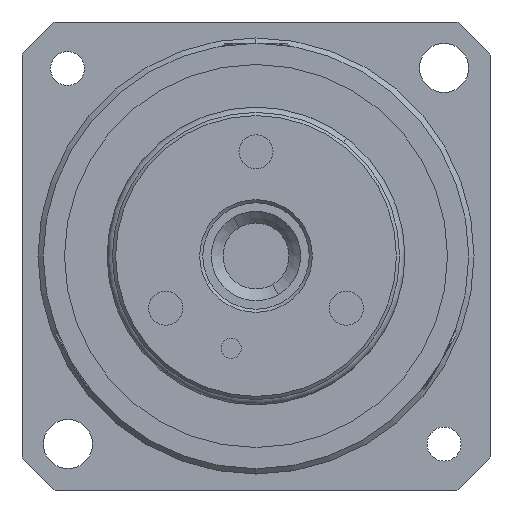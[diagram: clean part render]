
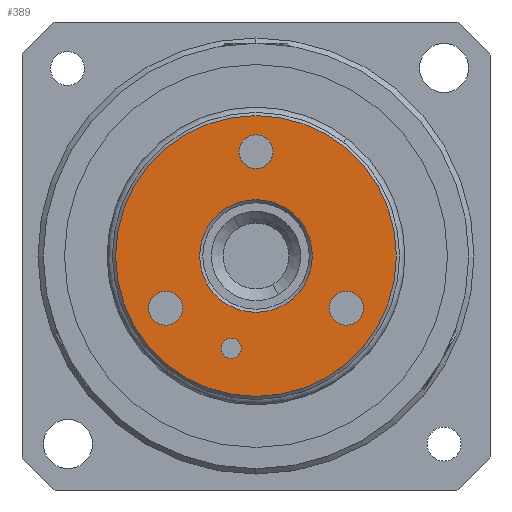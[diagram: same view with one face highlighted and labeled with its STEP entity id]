
A CAD part, left-side view. The second image highlights one B-rep face of the part: STEP entity #389.
In plain terms, the highlighted planar face has unit normal (-1, 0, 0) as drawn and (1, 0, 0) by its records, which use the part's own axes.
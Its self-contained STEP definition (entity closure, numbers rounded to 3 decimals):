
#74 = EDGE_CURVE ( 'NONE', #5388, #4124, #5758, .T. ) ;
#151 = AXIS2_PLACEMENT_3D ( 'NONE', #5463, #7902, #987 ) ;
#160 = DIRECTION ( 'NONE',  ( 0., 0., -1. ) ) ;
#161 = ORIENTED_EDGE ( 'NONE', *, *, #7798, .T. ) ;
#166 = EDGE_LOOP ( 'NONE', ( #2991, #1063 ) ) ;
#389 = ADVANCED_FACE ( 'NONE', ( #8021, #3136, #6321, #8233, #4621, #2919 ), #2220, .F. ) ;
#544 = DIRECTION ( 'NONE',  ( 1., 0., 0. ) ) ;
#903 = CARTESIAN_POINT ( 'NONE',  ( 3.5, 2.65, 0. ) ) ;
#904 = EDGE_CURVE ( 'NONE', #2517, #2728, #4137, .T. ) ;
#987 = DIRECTION ( 'NONE',  ( 0., -1., 0. ) ) ;
#1000 = EDGE_CURVE ( 'NONE', #4154, #8125, #6717, .T. ) ;
#1001 = AXIS2_PLACEMENT_3D ( 'NONE', #7797, #4009, #160 ) ;
#1063 = ORIENTED_EDGE ( 'NONE', *, *, #5921, .T. ) ;
#1213 = DIRECTION ( 'NONE',  ( 1., 0., 0. ) ) ;
#1271 = VERTEX_POINT ( 'NONE', #4160 ) ;
#1281 = CIRCLE ( 'NONE', #7271, 0.8 ) ;
#1307 = EDGE_CURVE ( 'NONE', #2728, #2517, #3530, .T. ) ;
#1392 = CARTESIAN_POINT ( 'NONE',  ( 3.5, -2.45, 4.244 ) ) ;
#1710 = ORIENTED_EDGE ( 'NONE', *, *, #1000, .T. ) ;
#1727 = CARTESIAN_POINT ( 'NONE',  ( 3.5, 0., 0. ) ) ;
#1863 = AXIS2_PLACEMENT_3D ( 'NONE', #7767, #5369, #6387 ) ;
#1867 = ORIENTED_EDGE ( 'NONE', *, *, #4630, .F. ) ;
#1873 = CARTESIAN_POINT ( 'NONE',  ( 3.5, -2.45, 3.444 ) ) ;
#1942 = CARTESIAN_POINT ( 'NONE',  ( 3.5, 4.9, 0.8 ) ) ;
#2025 = AXIS2_PLACEMENT_3D ( 'NONE', #1727, #6217, #2370 ) ;
#2051 = AXIS2_PLACEMENT_3D ( 'NONE', #1392, #5904, #2055 ) ;
#2055 = DIRECTION ( 'NONE',  ( 0., 0., -1. ) ) ;
#2153 = EDGE_CURVE ( 'NONE', #3676, #3718, #3605, .T. ) ;
#2220 = PLANE ( 'NONE',  #151 ) ;
#2318 = ORIENTED_EDGE ( 'NONE', *, *, #904, .T. ) ;
#2370 = DIRECTION ( 'NONE',  ( 0., -1., 0. ) ) ;
#2375 = CIRCLE ( 'NONE', #3536, 0.8 ) ;
#2517 = VERTEX_POINT ( 'NONE', #7026 ) ;
#2526 = CARTESIAN_POINT ( 'NONE',  ( 3.5, -6.6, 0. ) ) ;
#2570 = CARTESIAN_POINT ( 'NONE',  ( 3.5, 0., 0. ) ) ;
#2693 = CIRCLE ( 'NONE', #4119, 0.8 ) ;
#2711 = CARTESIAN_POINT ( 'NONE',  ( 3.5, 6.6, 0. ) ) ;
#2727 = CARTESIAN_POINT ( 'NONE',  ( 3.5, 3.182, 2.707 ) ) ;
#2728 = VERTEX_POINT ( 'NONE', #903 ) ;
#2734 = DIRECTION ( 'NONE',  ( 0., -1., 0. ) ) ;
#2766 = CARTESIAN_POINT ( 'NONE',  ( 3.5, 4.9, 0. ) ) ;
#2811 = DIRECTION ( 'NONE',  ( -1., 0., 0. ) ) ;
#2919 = FACE_BOUND ( 'NONE', #6739, .T. ) ;
#2955 = DIRECTION ( 'NONE',  ( 0., 0., -1. ) ) ;
#2973 = DIRECTION ( 'NONE',  ( -1., 0., 0. ) ) ;
#2991 = ORIENTED_EDGE ( 'NONE', *, *, #3968, .T. ) ;
#3136 = FACE_OUTER_BOUND ( 'NONE', #3961, .T. ) ;
#3193 = EDGE_CURVE ( 'NONE', #3718, #3676, #1281, .T. ) ;
#3273 = ORIENTED_EDGE ( 'NONE', *, *, #1307, .T. ) ;
#3358 = CIRCLE ( 'NONE', #7060, 0.475 ) ;
#3363 = CIRCLE ( 'NONE', #2025, 6.6 ) ;
#3410 = DIRECTION ( 'NONE',  ( 1., 0., 0. ) ) ;
#3431 = DIRECTION ( 'NONE',  ( 0., 0., -1. ) ) ;
#3530 = CIRCLE ( 'NONE', #6008, 2.65 ) ;
#3536 = AXIS2_PLACEMENT_3D ( 'NONE', #7225, #3410, #7855 ) ;
#3605 = CIRCLE ( 'NONE', #1001, 0.8 ) ;
#3676 = VERTEX_POINT ( 'NONE', #1942 ) ;
#3718 = VERTEX_POINT ( 'NONE', #5212 ) ;
#3815 = VERTEX_POINT ( 'NONE', #2727 ) ;
#3855 = EDGE_LOOP ( 'NONE', ( #7521, #1867 ) ) ;
#3917 = AXIS2_PLACEMENT_3D ( 'NONE', #7964, #544, #2955 ) ;
#3961 = EDGE_LOOP ( 'NONE', ( #1710, #161 ) ) ;
#3968 = EDGE_CURVE ( 'NONE', #1271, #3815, #6403, .T. ) ;
#4009 = DIRECTION ( 'NONE',  ( 1., 0., 0. ) ) ;
#4119 = AXIS2_PLACEMENT_3D ( 'NONE', #5087, #1213, #5741 ) ;
#4124 = VERTEX_POINT ( 'NONE', #4306 ) ;
#4133 = EDGE_CURVE ( 'NONE', #6040, #7822, #2693, .T. ) ;
#4135 = DIRECTION ( 'NONE',  ( -1., 0., 0. ) ) ;
#4137 = CIRCLE ( 'NONE', #5486, 2.65 ) ;
#4154 = VERTEX_POINT ( 'NONE', #2526 ) ;
#4160 = CARTESIAN_POINT ( 'NONE',  ( 3.5, 3.182, 3.657 ) ) ;
#4306 = CARTESIAN_POINT ( 'NONE',  ( 3.5, -2.45, -3.444 ) ) ;
#4369 = EDGE_CURVE ( 'NONE', #4124, #5388, #2375, .T. ) ;
#4484 = DIRECTION ( 'NONE',  ( 0., -1., 0. ) ) ;
#4621 = FACE_BOUND ( 'NONE', #5845, .T. ) ;
#4630 = EDGE_CURVE ( 'NONE', #7822, #6040, #7389, .T. ) ;
#4954 = CARTESIAN_POINT ( 'NONE',  ( 3.5, -2.45, 5.044 ) ) ;
#5087 = CARTESIAN_POINT ( 'NONE',  ( 3.5, -2.45, 4.244 ) ) ;
#5125 = AXIS2_PLACEMENT_3D ( 'NONE', #6649, #2811, #7290 ) ;
#5212 = CARTESIAN_POINT ( 'NONE',  ( 3.5, 4.9, -0.8 ) ) ;
#5369 = DIRECTION ( 'NONE',  ( 1., 0., 0. ) ) ;
#5388 = VERTEX_POINT ( 'NONE', #6726 ) ;
#5463 = CARTESIAN_POINT ( 'NONE',  ( 3.5, 6.75, 0. ) ) ;
#5486 = AXIS2_PLACEMENT_3D ( 'NONE', #2570, #4135, #4484 ) ;
#5697 = ORIENTED_EDGE ( 'NONE', *, *, #3193, .F. ) ;
#5741 = DIRECTION ( 'NONE',  ( 0., 0., -1. ) ) ;
#5758 = CIRCLE ( 'NONE', #3917, 0.8 ) ;
#5845 = EDGE_LOOP ( 'NONE', ( #7292, #8027 ) ) ;
#5904 = DIRECTION ( 'NONE',  ( 1., 0., 0. ) ) ;
#5921 = EDGE_CURVE ( 'NONE', #3815, #1271, #3358, .T. ) ;
#6008 = AXIS2_PLACEMENT_3D ( 'NONE', #6070, #7908, #2734 ) ;
#6040 = VERTEX_POINT ( 'NONE', #1873 ) ;
#6070 = CARTESIAN_POINT ( 'NONE',  ( 3.5, 0., 0. ) ) ;
#6217 = DIRECTION ( 'NONE',  ( 1., 0., 0. ) ) ;
#6227 = EDGE_LOOP ( 'NONE', ( #3273, #2318 ) ) ;
#6321 = FACE_BOUND ( 'NONE', #6227, .T. ) ;
#6387 = DIRECTION ( 'NONE',  ( 0., -1., 0. ) ) ;
#6403 = CIRCLE ( 'NONE', #5125, 0.475 ) ;
#6649 = CARTESIAN_POINT ( 'NONE',  ( 3.5, 3.182, 3.182 ) ) ;
#6717 = CIRCLE ( 'NONE', #1863, 6.6 ) ;
#6726 = CARTESIAN_POINT ( 'NONE',  ( 3.5, -2.45, -5.044 ) ) ;
#6739 = EDGE_LOOP ( 'NONE', ( #5697, #6995 ) ) ;
#6810 = CARTESIAN_POINT ( 'NONE',  ( 3.5, 3.182, 3.182 ) ) ;
#6995 = ORIENTED_EDGE ( 'NONE', *, *, #2153, .F. ) ;
#7026 = CARTESIAN_POINT ( 'NONE',  ( 3.5, -2.65, 0. ) ) ;
#7060 = AXIS2_PLACEMENT_3D ( 'NONE', #6810, #2973, #7447 ) ;
#7225 = CARTESIAN_POINT ( 'NONE',  ( 3.5, -2.45, -4.244 ) ) ;
#7248 = DIRECTION ( 'NONE',  ( 1., 0., 0. ) ) ;
#7271 = AXIS2_PLACEMENT_3D ( 'NONE', #2766, #7248, #3431 ) ;
#7290 = DIRECTION ( 'NONE',  ( 0., -1., 0. ) ) ;
#7292 = ORIENTED_EDGE ( 'NONE', *, *, #74, .F. ) ;
#7389 = CIRCLE ( 'NONE', #2051, 0.8 ) ;
#7447 = DIRECTION ( 'NONE',  ( 0., -1., 0. ) ) ;
#7521 = ORIENTED_EDGE ( 'NONE', *, *, #4133, .F. ) ;
#7767 = CARTESIAN_POINT ( 'NONE',  ( 3.5, 0., 0. ) ) ;
#7797 = CARTESIAN_POINT ( 'NONE',  ( 3.5, 4.9, 0. ) ) ;
#7798 = EDGE_CURVE ( 'NONE', #8125, #4154, #3363, .T. ) ;
#7822 = VERTEX_POINT ( 'NONE', #4954 ) ;
#7855 = DIRECTION ( 'NONE',  ( 0., 0., -1. ) ) ;
#7902 = DIRECTION ( 'NONE',  ( -1., 0., 0. ) ) ;
#7908 = DIRECTION ( 'NONE',  ( -1., 0., 0. ) ) ;
#7964 = CARTESIAN_POINT ( 'NONE',  ( 3.5, -2.45, -4.244 ) ) ;
#8021 = FACE_BOUND ( 'NONE', #166, .T. ) ;
#8027 = ORIENTED_EDGE ( 'NONE', *, *, #4369, .F. ) ;
#8125 = VERTEX_POINT ( 'NONE', #2711 ) ;
#8233 = FACE_BOUND ( 'NONE', #3855, .T. ) ;
